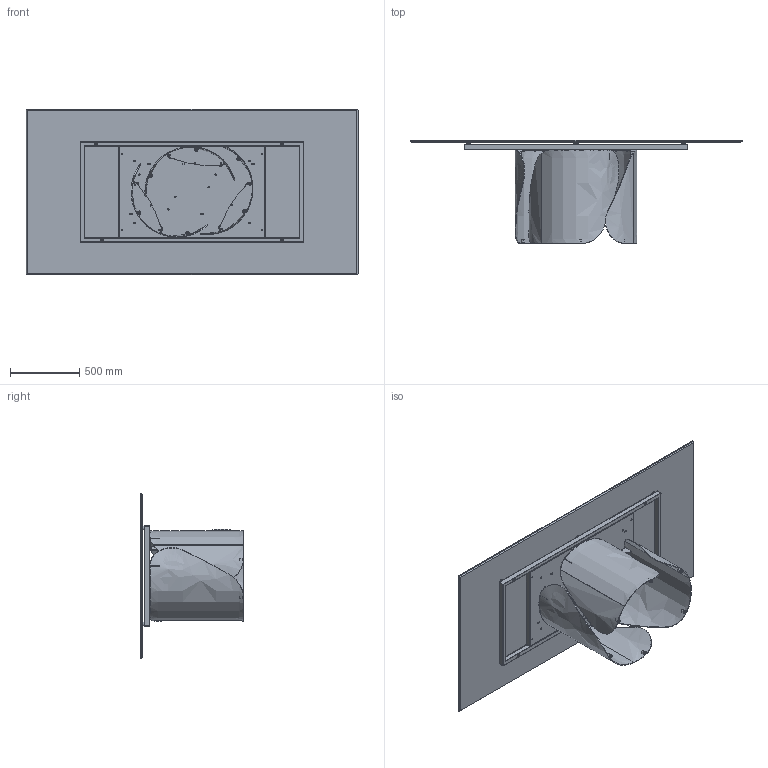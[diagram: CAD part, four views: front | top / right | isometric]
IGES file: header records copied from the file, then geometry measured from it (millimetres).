
Start section: SolidWorks IGES file using analytic representation for surfaces
Global section: file name: Y:\eforma\TECNICO\SOLIDWORKS\E-FORMA\1-TAVOLI\ONDA\02 parts\ON22C.IGS; native system: SolidWorks 2022; preprocessor: SolidWorks 2022; author: eforma.tech; date: 240806.155132; units: millimetre
Bounding box: 2390 x 742 x 1190 mm (x, y, z)
Volume: 58189812.5 mm3; surface area: 17750677.8 mm2
Topology: 64 solids, 64 shells, 1565 faces, 3545 edges, 2138 vertices
Faces by surface type: revolution 913, plane 592, bspline 60
